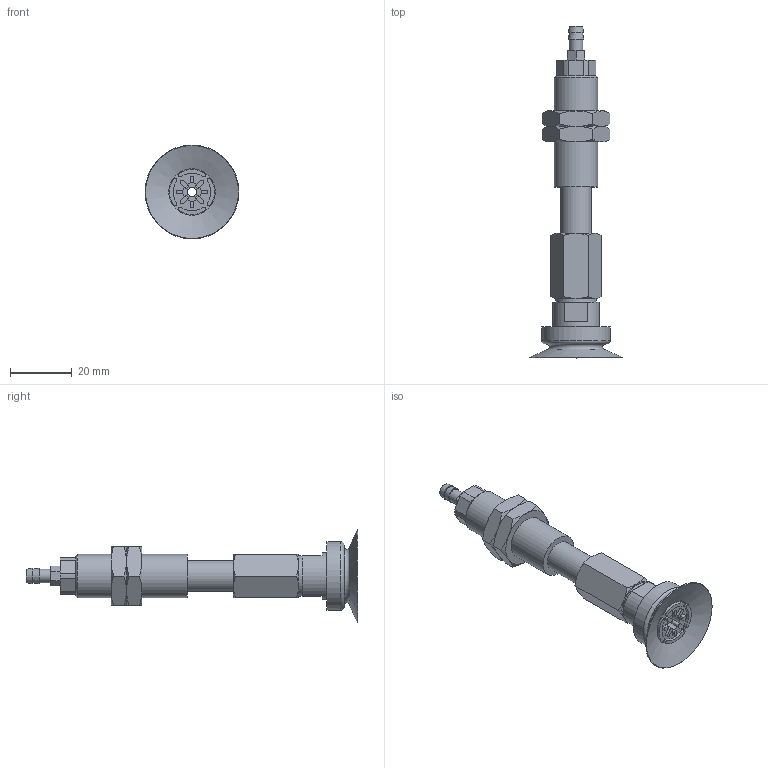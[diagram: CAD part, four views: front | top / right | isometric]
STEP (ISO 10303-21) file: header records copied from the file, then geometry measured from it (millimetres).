
FILE_DESCRIPTION(('STEP AP203'),'1');
FILE_NAME('-T.stp','2025-08-26T09:04:26',(' '),(' '),'Spatial InterOp 3D',' ',' ');
FILE_SCHEMA(('CONFIG_CONTROL_DESIGN'));
Length unit declared in the file: millimetre
Products named in the file (7): BNABPATS-30-15-※-T; ADAPTER; NAPATS-30B-15--M; NAPATS-30B-15--F; Nut-25-S; T; BPAG-30-※
Assembly tree (7 placements, depth 2):
  BNABPATS-30-15-※-T
    ADAPTER
    NAPATS-30B-15--M
    NAPATS-30B-15--F
    Nut-25-S  x2
    T
    BPAG-30-※
Bounding box: 30.3 x 107.2 x 30.3 mm (x, y, z)
Volume: 16311.4 mm3; surface area: 12340.4 mm2
Topology: 7 solids, 7 shells, 200 faces, 458 edges, 289 vertices
Faces by surface type: plane 89, cylinder 60, cone 49, torus 2
Full cylindrical faces by diameter (mm): 3 x4, 4.134 x1, 4.3 x1, 4.6 x1, 4.917 x1, 5 x1, 6 x1, 10 x2, 12.917 x2, 13 x1, 14 x1, 15 x1, 22 x1
Entity records: 5477 total; most frequent: CARTESIAN_POINT 1155, DIRECTION 867, ORIENTED_EDGE 752, EDGE_CURVE 376, AXIS2_PLACEMENT_3D 354, VERTEX_POINT 258, EDGE_LOOP 236, FACE_OUTER_BOUND 196
